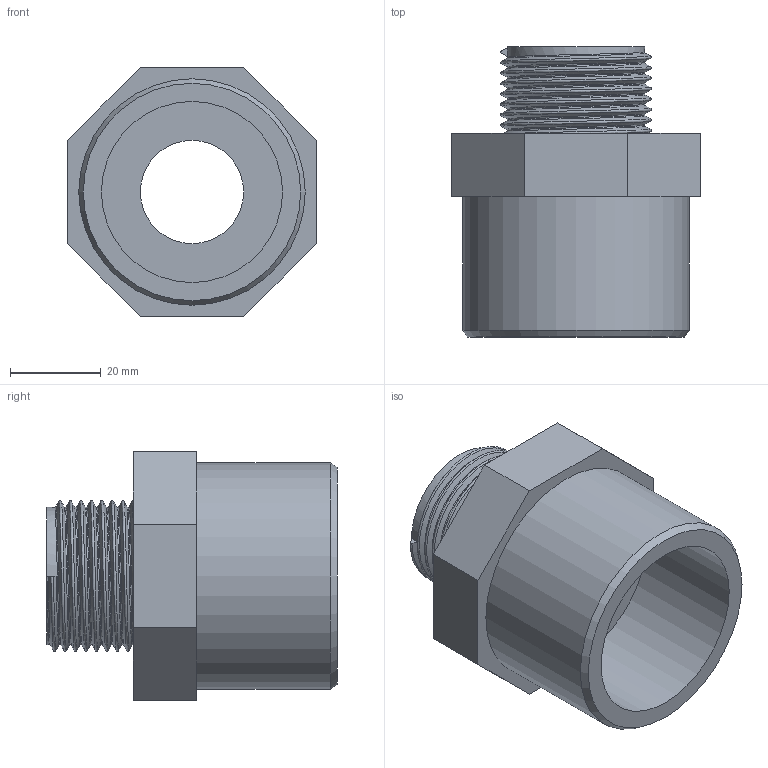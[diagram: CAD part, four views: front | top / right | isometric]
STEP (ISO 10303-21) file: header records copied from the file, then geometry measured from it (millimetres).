
FILE_DESCRIPTION(/* description */ ('PVC adattatore incollaggio-filettatura BSP maschio'),/* implementation_level */ '2;1');
FILE_NAME(/* name */ 'C:\Users\POLYPIPE\Desktop\DATASET INVENTOR\LIBRERIA EFFAST\RACCORDI 3DxWEB\RGR\3D_RGRAMG\3D_RGRAMG040D.stp',/* time_stamp */ '2018-01-19T17:35:45+01:00',/* author */ ('POLYPIPE'),/* organization */ ('Polypipe Italia s.r.l.'),/* preprocessor_version */ 'ST-DEVELOPER v16.1',/* originating_system */ 'Autodesk Inventor 2016',/* authorisation */ '');
FILE_SCHEMA (('CONFIG_CONTROL_DESIGN'));
Length unit declared in the file: millimetre
Products named in the file (1): 3D_RGRAMG
Bounding box: 55 x 64.1 x 55 mm (x, y, z)
Volume: 61731 mm3; surface area: 20686.3 mm2
Topology: 1 solids, 1 shells, 26 faces, 56 edges, 36 vertices
Faces by surface type: plane 15, cylinder 5, bspline 5, cone 1
Full cylindrical faces by diameter (mm): 22.8 x1, 23.8 x1, 30.291 x1, 40 x1, 50 x1
Entity records: 3695 total; most frequent: CARTESIAN_POINT 3142, ORIENTED_EDGE 102, DIRECTION 97, EDGE_CURVE 51, EDGE_LOOP 37, VERTEX_POINT 36, AXIS2_PLACEMENT_3D 35, LINE 27
